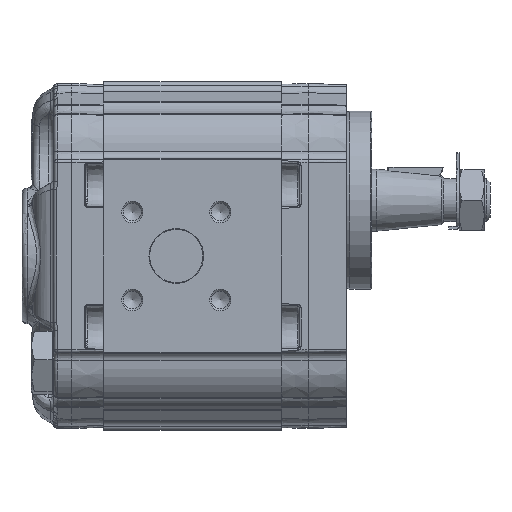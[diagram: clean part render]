
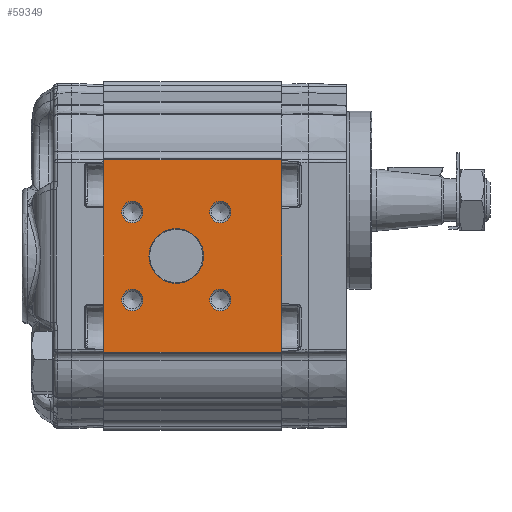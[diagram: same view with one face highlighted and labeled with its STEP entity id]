
A CAD part, left-side view. The second image highlights one B-rep face of the part: STEP entity #59349.
In plain terms, the highlighted planar face has unit normal (-1, 0, 0) as drawn and (1, 0, 0) by its records, which use the part's own axes.
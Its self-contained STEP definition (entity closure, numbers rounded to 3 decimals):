
#3914=PLANE('',#63107);
#5200=LINE('',#91051,#7344);
#5212=LINE('',#91190,#7356);
#5229=LINE('',#91234,#7373);
#5230=LINE('',#91235,#7374);
#7344=VECTOR('',#70243,1000.);
#7356=VECTOR('',#70373,1000.);
#7373=VECTOR('',#70426,1000.);
#7374=VECTOR('',#70427,1000.);
#14161=ORIENTED_EDGE('',*,*,#23866,.T.);
#14162=ORIENTED_EDGE('',*,*,#23867,.T.);
#14163=ORIENTED_EDGE('',*,*,#23868,.T.);
#14164=ORIENTED_EDGE('',*,*,#23869,.T.);
#14165=ORIENTED_EDGE('',*,*,#23870,.T.);
#14166=ORIENTED_EDGE('',*,*,#23845,.F.);
#14167=ORIENTED_EDGE('',*,*,#23871,.F.);
#14168=ORIENTED_EDGE('',*,*,#23775,.T.);
#14169=ORIENTED_EDGE('',*,*,#23872,.T.);
#23775=EDGE_CURVE('',#28966,#28965,#5200,.T.);
#23845=EDGE_CURVE('',#29033,#29034,#5212,.T.);
#23866=EDGE_CURVE('',#29038,#29038,#32195,.F.);
#23867=EDGE_CURVE('',#29039,#29039,#32196,.F.);
#23868=EDGE_CURVE('',#29040,#29040,#32197,.F.);
#23869=EDGE_CURVE('',#29041,#29041,#32198,.F.);
#23870=EDGE_CURVE('',#29042,#29042,#32199,.F.);
#23871=EDGE_CURVE('',#28966,#29033,#5229,.T.);
#23872=EDGE_CURVE('',#28965,#29034,#5230,.T.);
#28965=VERTEX_POINT('',#91050);
#28966=VERTEX_POINT('',#91052);
#29033=VERTEX_POINT('',#91189);
#29034=VERTEX_POINT('',#91191);
#29038=VERTEX_POINT('',#91225);
#29039=VERTEX_POINT('',#91227);
#29040=VERTEX_POINT('',#91229);
#29041=VERTEX_POINT('',#91231);
#29042=VERTEX_POINT('',#91233);
#32195=CIRCLE('',#63108,7.7);
#32196=CIRCLE('',#63109,3.);
#32197=CIRCLE('',#63110,3.);
#32198=CIRCLE('',#63111,3.);
#32199=CIRCLE('',#63112,3.);
#34254=EDGE_LOOP('',(#14161));
#34255=EDGE_LOOP('',(#14162));
#34256=EDGE_LOOP('',(#14163));
#34257=EDGE_LOOP('',(#14164));
#34258=EDGE_LOOP('',(#14165));
#34259=EDGE_LOOP('',(#14166,#14167,#14168,#14169));
#37193=FACE_BOUND('',#34254,.T.);
#37194=FACE_BOUND('',#34255,.T.);
#37195=FACE_BOUND('',#34256,.T.);
#37196=FACE_BOUND('',#34257,.T.);
#37197=FACE_BOUND('',#34258,.T.);
#37198=FACE_BOUND('',#34259,.T.);
#59349=ADVANCED_FACE('',(#37193,#37194,#37195,#37196,#37197,#37198),#3914,
 .T.);
#63107=AXIS2_PLACEMENT_3D('',#91223,#70414,#70415);
#63108=AXIS2_PLACEMENT_3D('',#91224,#70416,#70417);
#63109=AXIS2_PLACEMENT_3D('',#91226,#70418,#70419);
#63110=AXIS2_PLACEMENT_3D('',#91228,#70420,#70421);
#63111=AXIS2_PLACEMENT_3D('',#91230,#70422,#70423);
#63112=AXIS2_PLACEMENT_3D('',#91232,#70424,#70425);
#70243=DIRECTION('',(0.,0.,1.));
#70373=DIRECTION('',(0.,0.,1.));
#70414=DIRECTION('',(1.,0.,0.));
#70415=DIRECTION('',(0.,0.,-1.));
#70416=DIRECTION('',(1.,0.,0.));
#70417=DIRECTION('',(0.,0.,-1.));
#70418=DIRECTION('',(1.,0.,0.));
#70419=DIRECTION('',(0.,0.,-1.));
#70420=DIRECTION('',(1.,0.,0.));
#70421=DIRECTION('',(0.,0.,-1.));
#70422=DIRECTION('',(1.,0.,0.));
#70423=DIRECTION('',(0.,0.,-1.));
#70424=DIRECTION('',(1.,0.,0.));
#70425=DIRECTION('',(0.,0.,-1.));
#70426=DIRECTION('',(0.,-1.,0.));
#70427=DIRECTION('',(0.,-1.,0.));
#91050=CARTESIAN_POINT('',(43.,50.,27.048));
#91051=CARTESIAN_POINT('',(43.,50.,27.048));
#91052=CARTESIAN_POINT('',(43.,50.,-27.048));
#91189=CARTESIAN_POINT('',(43.,0.,-27.048));
#91190=CARTESIAN_POINT('',(43.,0.,27.048));
#91191=CARTESIAN_POINT('',(43.,0.,27.048));
#91223=CARTESIAN_POINT('',(43.,50.,27.048));
#91224=CARTESIAN_POINT('',(43.,29.6,0.));
#91225=CARTESIAN_POINT('',(43.,29.6,-7.7));
#91226=CARTESIAN_POINT('',(43.,41.974,-12.374));
#91227=CARTESIAN_POINT('',(43.,41.974,-15.374));
#91228=CARTESIAN_POINT('',(43.,41.974,12.374));
#91229=CARTESIAN_POINT('',(43.,41.974,9.374));
#91230=CARTESIAN_POINT('',(43.,17.226,12.374));
#91231=CARTESIAN_POINT('',(43.,17.226,9.374));
#91232=CARTESIAN_POINT('',(43.,17.226,-12.374));
#91233=CARTESIAN_POINT('',(43.,17.226,-15.374));
#91234=CARTESIAN_POINT('',(43.,50.,-27.048));
#91235=CARTESIAN_POINT('',(43.,50.,27.048));
